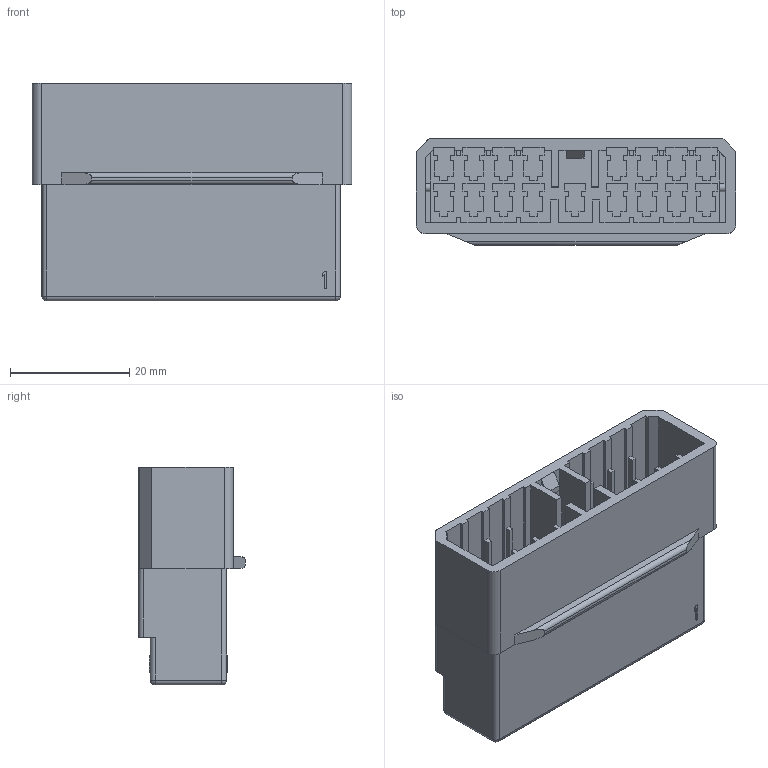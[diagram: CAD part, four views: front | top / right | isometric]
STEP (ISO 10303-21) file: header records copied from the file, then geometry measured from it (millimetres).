
FILE_DESCRIPTION((''),'2;1');
FILE_NAME('C-172509-1','2008-12-18T',('workeradm'),('Tyco Electronics Corporation'),'PRO/ENGINEER BY PARAMETRIC TECHNOLOGY CORPORATION, 2005450','PRO/ENGINEER BY PARAMETRIC TECHNOLOGY CORPORATION, 2005450','');
FILE_SCHEMA(('CONFIG_CONTROL_DESIGN', 'GEOMETRIC_VALIDATION_PROPERTIES_MIM'));
Length unit declared in the file: millimetre
Products named in the file (1): C-172509-1
Bounding box: 53.6 x 17.9 x 36.5 mm (x, y, z)
Volume: 17399.7 mm3; surface area: 10491.4 mm2
Topology: 1 solids, 1 shells, 586 faces, 1651 edges, 1081 vertices
Faces by surface type: plane 559, cylinder 21, sphere 6
Entity records: 18634 total; most frequent: CARTESIAN_POINT 3349, ORIENTED_EDGE 3302, DIRECTION 2859, EDGE_CURVE 1651, VECTOR 1607, LINE 1607, VERTEX_POINT 1081, AXIS2_PLACEMENT_3D 626
